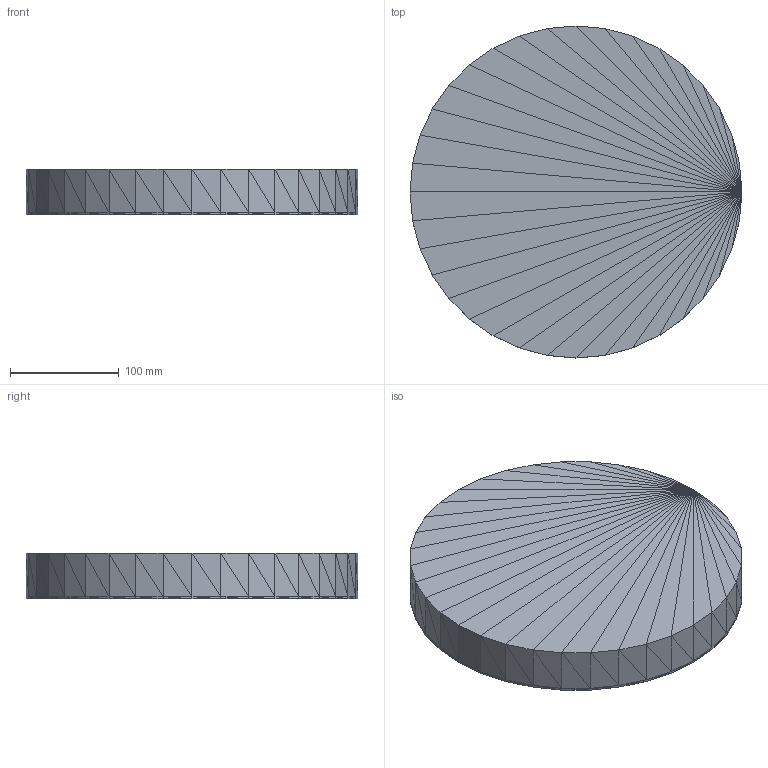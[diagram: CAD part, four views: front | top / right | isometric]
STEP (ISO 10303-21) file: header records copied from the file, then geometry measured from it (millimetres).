
FILE_DESCRIPTION(('ISINAC STEP AP214'),'2;1');
FILE_NAME('ISINAC_CIR.305_40mm_IMANTADA','2026-05-03T10:49:19',('ISINAC'),('www.isinac.com'),'ISINAC BIM Generator 1.0','','');
FILE_SCHEMA(('AUTOMOTIVE_DESIGN'));
Length unit declared in the file: millimetre
Products named in the file (1): ISINAC_CIR.305_40mm_IMANTADA
Bounding box: 305 x 305 x 42 mm (x, y, z)
Surface area: 330958 mm2 (no closed solid volume)
Topology: 0 solids, 280 shells, 280 faces, 840 edges, 840 vertices
Faces by surface type: plane 280
Entity records: 3093 total; most frequent: CARTESIAN_POINT 1120, DIRECTION 560, POLY_LOOP 280, FACE_OUTER_BOUND 280, AXIS2_PLACEMENT_3D 280, PLANE 280, FACE_SURFACE 280, CLOSED_SHELL 1
